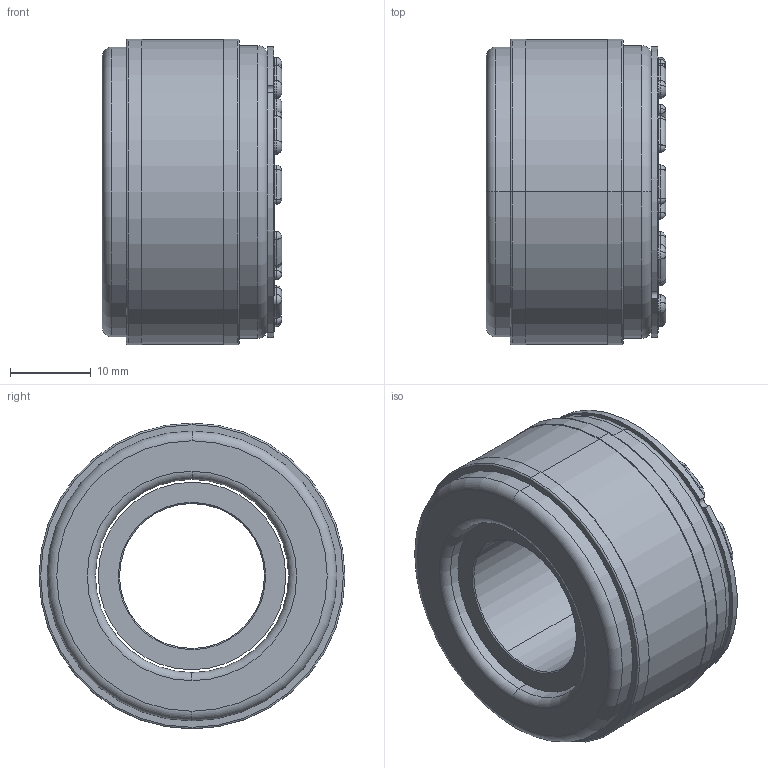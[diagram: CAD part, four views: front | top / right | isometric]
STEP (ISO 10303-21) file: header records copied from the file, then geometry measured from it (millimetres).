
FILE_DESCRIPTION (( 'STEP AP214' ), '1' );
FILE_NAME ('E-00108495.01.step', '2019-07-15T12:25:43', ( 'Admin' ), ( 'Microsoft' ), 'SwSTEP 2.0', 'SolidWorks 2018', '' );
FILE_SCHEMA (( 'AUTOMOTIVE_DESIGN' ));
Length unit declared in the file: millimetre
Products named in the file (4): E-00008484; E-00109811; E-00108494; E-00108495.01
Assembly tree (3 placements, depth 2):
  E-00108495.01
    E-00108494
    E-00109811
    E-00008484
Bounding box: 22.3 x 38 x 38 mm (x, y, z)
Volume: 16379.3 mm3; surface area: 9148.9 mm2
Topology: 3 solids, 3 shells, 780 faces, 1828 edges, 1179 vertices
Faces by surface type: cylinder 365, plane 338, torus 46, sphere 27, cone 4
Entity records: 28187 total; most frequent: DIRECTION 4289, CARTESIAN_POINT 3739, ORIENTED_EDGE 3584, EDGE_CURVE 1792, AXIS2_PLACEMENT_3D 1711, VERTEX_POINT 1161, EDGE_LOOP 935, CIRCLE 925
